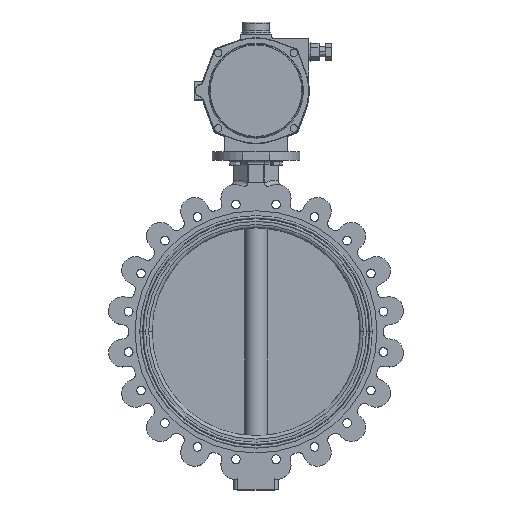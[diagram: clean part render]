
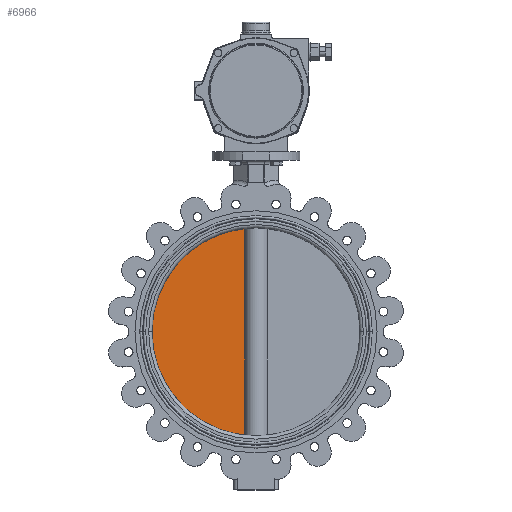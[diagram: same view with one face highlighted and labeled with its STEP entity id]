
A CAD part, top view. The second image highlights one B-rep face of the part: STEP entity #6966.
In plain terms, the highlighted planar face has unit normal (0, 0, 1).
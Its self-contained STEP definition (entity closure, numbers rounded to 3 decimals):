
#32 = VECTOR ( 'NONE', #9572, 1000. ) ;
#2248 = CIRCLE ( 'NONE', #7077, 250. ) ;
#2708 = CARTESIAN_POINT ( 'NONE',  ( -252., 470.501, 8. ) ) ;
#3567 = CARTESIAN_POINT ( 'NONE',  ( -26.833, 470.501, 8. ) ) ;
#6966 = ADVANCED_FACE ( 'NONE', ( #8364 ), #23634, .F. ) ;
#7077 = AXIS2_PLACEMENT_3D ( 'NONE', #18727, #14830, #7197 ) ;
#7197 = DIRECTION ( 'NONE',  ( -1., 0., 0. ) ) ;
#8364 = FACE_OUTER_BOUND ( 'NONE', #19646, .T. ) ;
#8622 = DIRECTION ( 'NONE',  ( 0., 0., -1. ) ) ;
#9403 = CARTESIAN_POINT ( 'NONE',  ( -26.833, 248.556, 8. ) ) ;
#9572 = DIRECTION ( 'NONE',  ( 0., -1., 0. ) ) ;
#10118 = DIRECTION ( 'NONE',  ( -1., 0., 0. ) ) ;
#10627 = VERTEX_POINT ( 'NONE', #23773 ) ;
#11563 = ORIENTED_EDGE ( 'NONE', *, *, #20615, .F. ) ;
#11847 = EDGE_CURVE ( 'NONE', #10627, #14256, #2248, .T. ) ;
#12258 = CARTESIAN_POINT ( 'NONE',  ( 0., 0., 8. ) ) ;
#12636 = DIRECTION ( 'NONE',  ( -1., 0., 0. ) ) ;
#14256 = VERTEX_POINT ( 'NONE', #16412 ) ;
#14384 = VERTEX_POINT ( 'NONE', #9403 ) ;
#14830 = DIRECTION ( 'NONE',  ( 0., 0., -1. ) ) ;
#15618 = DIRECTION ( 'NONE',  ( 0., 0., -1. ) ) ;
#16412 = CARTESIAN_POINT ( 'NONE',  ( -250., 0., 8. ) ) ;
#17430 = EDGE_CURVE ( 'NONE', #14384, #10627, #24464, .T. ) ;
#17708 = ORIENTED_EDGE ( 'NONE', *, *, #11847, .F. ) ;
#18168 = AXIS2_PLACEMENT_3D ( 'NONE', #12258, #8622, #12636 ) ;
#18630 = ORIENTED_EDGE ( 'NONE', *, *, #17430, .F. ) ;
#18727 = CARTESIAN_POINT ( 'NONE',  ( 0., 0., 8. ) ) ;
#19646 = EDGE_LOOP ( 'NONE', ( #17708, #18630, #11563 ) ) ;
#20615 = EDGE_CURVE ( 'NONE', #14256, #14384, #22141, .T. ) ;
#22141 = CIRCLE ( 'NONE', #18168, 250. ) ;
#23634 = PLANE ( 'NONE',  #23942 ) ;
#23773 = CARTESIAN_POINT ( 'NONE',  ( -26.833, -248.556, 8. ) ) ;
#23942 = AXIS2_PLACEMENT_3D ( 'NONE', #2708, #15618, #10118 ) ;
#24464 = LINE ( 'NONE', #3567, #32 ) ;
